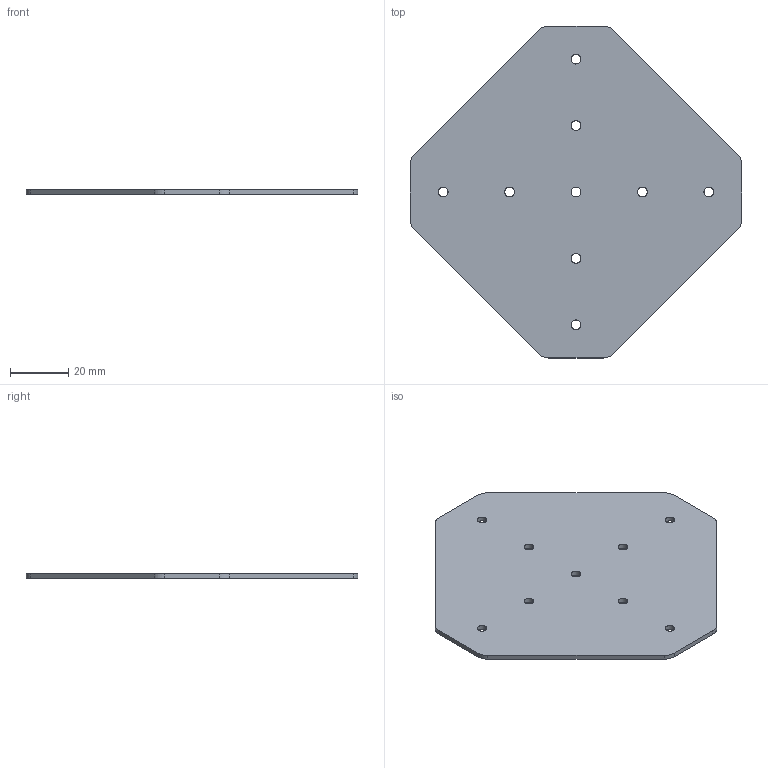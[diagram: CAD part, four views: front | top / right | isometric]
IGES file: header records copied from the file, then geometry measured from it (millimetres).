
Start section: SolidWorks IGES file using analytic representation for surfaces
Global section: file name: C:\Working\Gusset Convert\DRP-002-0007-03.igs; native system: SolidWorks 2010; preprocessor: SolidWorks 2010; author: mbush2; date: 100624.090032; units: inch
Bounding box: 113.67 x 113.67 x 1.59 mm (x, y, z)
Surface area: 18106.8 mm2 (no closed solid volume)
Topology: 0 solids, 0 shells, 36 faces, 792 edges, 792 vertices
Faces by surface type: revolution 26, bspline 10
